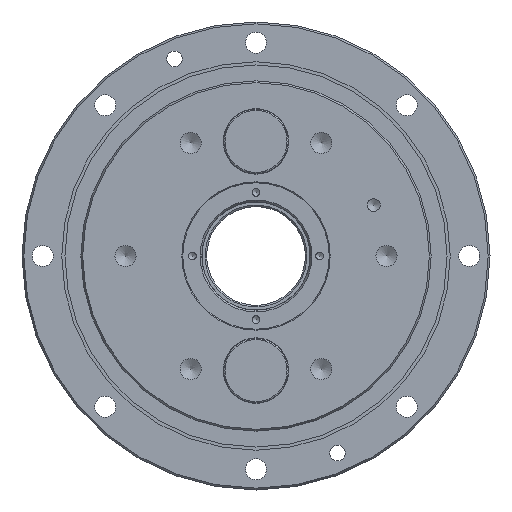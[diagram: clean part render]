
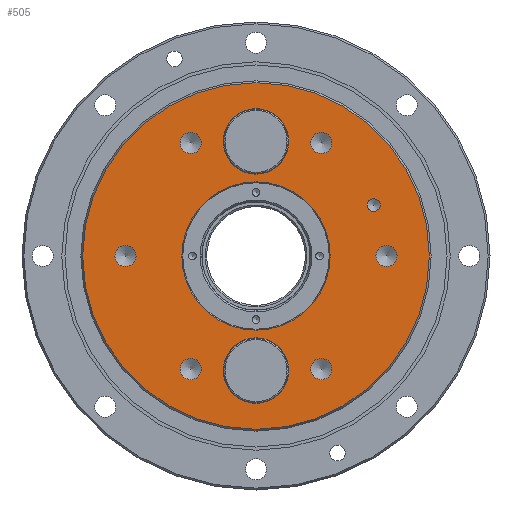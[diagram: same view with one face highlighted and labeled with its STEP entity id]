
A CAD part, left-side view. The second image highlights one B-rep face of the part: STEP entity #505.
In plain terms, the highlighted planar face has unit normal (-1, 0, 0).
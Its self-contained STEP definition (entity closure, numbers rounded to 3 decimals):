
#314=CARTESIAN_POINT('',(0.,0.,-25.711));
#315=VERTEX_POINT('',#314);
#316=CARTESIAN_POINT('',(0.,0.0,-36.0));
#317=DIRECTION('',(-1.0,0.0,0.0));
#318=DIRECTION('',(0.0,0.0,-1.0));
#319=AXIS2_PLACEMENT_3D('',#316,#317,#318);
#320=CIRCLE('',#319,10.289);
#321=EDGE_CURVE('',#315,#315,#320,.T.);
#371=CARTESIAN_POINT('',(0.,0.,46.289));
#372=VERTEX_POINT('',#371);
#373=CARTESIAN_POINT('',(0.,0.0,36.0));
#374=DIRECTION('',(-1.0,0.0,0.0));
#375=DIRECTION('',(0.0,0.0,-1.0));
#376=AXIS2_PLACEMENT_3D('',#373,#374,#375);
#377=CIRCLE('',#376,10.289);
#378=EDGE_CURVE('',#372,#372,#377,.T.);
#395=CARTESIAN_POINT('',(0.,38.856,0.0));
#396=DIRECTION('',(-1.0,0.0,0.0));
#397=DIRECTION('',(0.0,0.0,1.0));
#398=AXIS2_PLACEMENT_3D('',#395,#396,#397);
#399=PLANE('',#398);
#400=CARTESIAN_POINT('',(0.,54.423,0.0));
#401=VERTEX_POINT('',#400);
#402=CARTESIAN_POINT('',(0.,0.0,0.0));
#403=DIRECTION('',(1.0,0.0,0.0));
#404=DIRECTION('',(0.0,1.0,0.0));
#405=AXIS2_PLACEMENT_3D('',#402,#403,#404);
#406=CIRCLE('',#405,54.423);
#407=EDGE_CURVE('',#401,#401,#406,.T.);
#408=ORIENTED_EDGE('',*,*,#407,.F.);
#409=EDGE_LOOP('',(#408));
#410=FACE_OUTER_BOUND('',#409,.T.);
#411=ORIENTED_EDGE('',*,*,#321,.F.);
#412=EDGE_LOOP('',(#411));
#413=FACE_BOUND('',#412,.T.);
#414=CARTESIAN_POINT('',(0.,-37.0,18.0));
#415=VERTEX_POINT('',#414);
#416=CARTESIAN_POINT('',(0.,-37.0,16.0));
#417=DIRECTION('',(1.0,0.0,0.0));
#418=DIRECTION('',(0.0,0.0,1.0));
#419=AXIS2_PLACEMENT_3D('',#416,#417,#418);
#420=CIRCLE('',#419,2.0);
#421=EDGE_CURVE('',#415,#415,#420,.T.);
#422=ORIENTED_EDGE('',*,*,#421,.T.);
#423=EDGE_LOOP('',(#422));
#424=FACE_BOUND('',#423,.T.);
#425=CARTESIAN_POINT('',(0.,23.378,-33.845));
#426=VERTEX_POINT('',#425);
#427=CARTESIAN_POINT('',(0.,20.5,-35.507));
#428=DIRECTION('',(1.,0.0,0.0));
#429=DIRECTION('',(0.0,0.866,0.5));
#430=AXIS2_PLACEMENT_3D('',#427,#428,#429);
#431=CIRCLE('',#430,3.324);
#432=EDGE_CURVE('',#426,#426,#431,.T.);
#433=ORIENTED_EDGE('',*,*,#432,.T.);
#434=EDGE_LOOP('',(#433));
#435=FACE_BOUND('',#434,.T.);
#436=CARTESIAN_POINT('',(0.,-17.622,-37.169));
#437=VERTEX_POINT('',#436);
#438=CARTESIAN_POINT('',(0.,-20.5,-35.507));
#439=DIRECTION('',(1.0,0.0,0.0));
#440=DIRECTION('',(0.0,0.866,-0.5));
#441=AXIS2_PLACEMENT_3D('',#438,#439,#440);
#442=CIRCLE('',#441,3.324);
#443=EDGE_CURVE('',#437,#437,#442,.T.);
#444=ORIENTED_EDGE('',*,*,#443,.T.);
#445=EDGE_LOOP('',(#444));
#446=FACE_BOUND('',#445,.T.);
#447=CARTESIAN_POINT('',(0.,-41.,-3.323));
#448=VERTEX_POINT('',#447);
#449=CARTESIAN_POINT('',(0.,-41.,0.));
#450=DIRECTION('',(1.0,0.0,0.0));
#451=DIRECTION('',(0.0,0.0,-1.0));
#452=AXIS2_PLACEMENT_3D('',#449,#450,#451);
#453=CIRCLE('',#452,3.324);
#454=EDGE_CURVE('',#448,#448,#453,.T.);
#455=ORIENTED_EDGE('',*,*,#454,.T.);
#456=EDGE_LOOP('',(#455));
#457=FACE_BOUND('',#456,.T.);
#458=CARTESIAN_POINT('',(0.,-23.378,33.845));
#459=VERTEX_POINT('',#458);
#460=CARTESIAN_POINT('',(0.,-20.5,35.507));
#461=DIRECTION('',(1.,0.0,0.0));
#462=DIRECTION('',(0.0,-0.866,-0.5));
#463=AXIS2_PLACEMENT_3D('',#460,#461,#462);
#464=CIRCLE('',#463,3.324);
#465=EDGE_CURVE('',#459,#459,#464,.T.);
#466=ORIENTED_EDGE('',*,*,#465,.T.);
#467=EDGE_LOOP('',(#466));
#468=FACE_BOUND('',#467,.T.);
#469=CARTESIAN_POINT('',(0.,17.622,37.169));
#470=VERTEX_POINT('',#469);
#471=CARTESIAN_POINT('',(0.,20.5,35.507));
#472=DIRECTION('',(1.0,0.0,0.0));
#473=DIRECTION('',(0.0,-0.866,0.5));
#474=AXIS2_PLACEMENT_3D('',#471,#472,#473);
#475=CIRCLE('',#474,3.324);
#476=EDGE_CURVE('',#470,#470,#475,.T.);
#477=ORIENTED_EDGE('',*,*,#476,.T.);
#478=EDGE_LOOP('',(#477));
#479=FACE_BOUND('',#478,.T.);
#480=CARTESIAN_POINT('',(0.,41.,3.324));
#481=VERTEX_POINT('',#480);
#482=CARTESIAN_POINT('',(0.,41.,0.0));
#483=DIRECTION('',(1.0,0.0,0.0));
#484=DIRECTION('',(0.0,0.0,1.0));
#485=AXIS2_PLACEMENT_3D('',#482,#483,#484);
#486=CIRCLE('',#485,3.324);
#487=EDGE_CURVE('',#481,#481,#486,.T.);
#488=ORIENTED_EDGE('',*,*,#487,.T.);
#489=EDGE_LOOP('',(#488));
#490=FACE_BOUND('',#489,.T.);
#491=CARTESIAN_POINT('',(0.,23.289,0.0));
#492=VERTEX_POINT('',#491);
#493=CARTESIAN_POINT('',(0.,0.0,0.0));
#494=DIRECTION('',(1.0,0.0,0.0));
#495=DIRECTION('',(0.0,1.0,0.0));
#496=AXIS2_PLACEMENT_3D('',#493,#494,#495);
#497=CIRCLE('',#496,23.289);
#498=EDGE_CURVE('',#492,#492,#497,.T.);
#499=ORIENTED_EDGE('',*,*,#498,.T.);
#500=EDGE_LOOP('',(#499));
#501=FACE_BOUND('',#500,.T.);
#502=ORIENTED_EDGE('',*,*,#378,.F.);
#503=EDGE_LOOP('',(#502));
#504=FACE_BOUND('',#503,.T.);
#505=ADVANCED_FACE('',(#410,#413,#424,#435,#446,#457,#468,#479,#490,#501,#504),#399,.T.);
